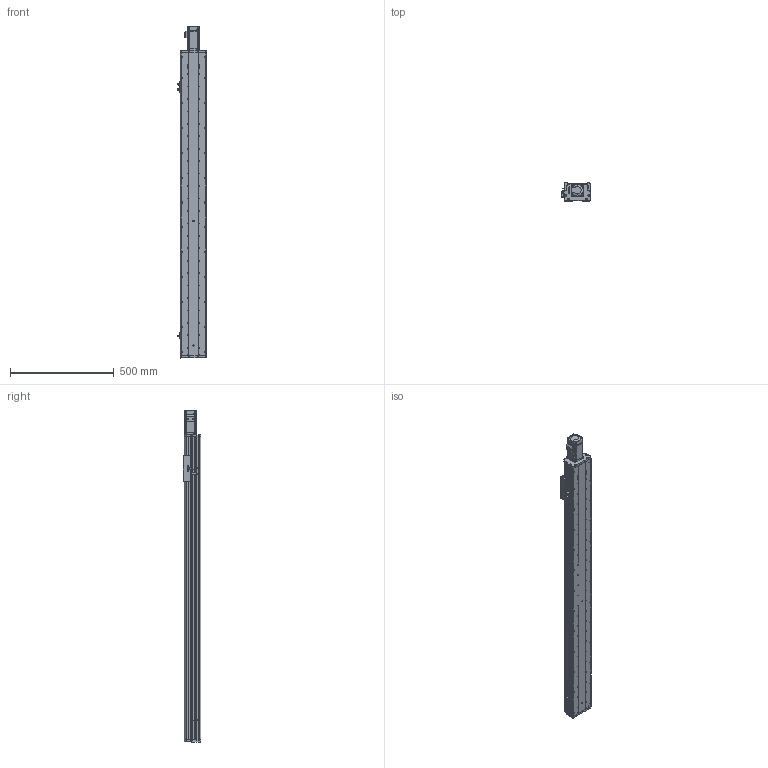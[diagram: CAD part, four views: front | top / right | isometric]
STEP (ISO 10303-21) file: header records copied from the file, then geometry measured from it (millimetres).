
FILE_DESCRIPTION (( 'STEP AP214' ), '1' );
FILE_NAME ('KSD125S-S1200-MN-CM.STEP', '2017-08-07T06:30:08', ( '微软用户' ), ( '微软中国' ), 'SwSTEP 2.0', 'SolidWorks 2014', '' );
FILE_SCHEMA (( 'AUTOMOTIVE_DESIGN' ));
Length unit declared in the file: millimetre
Products named in the file (12): KSD125S-1200行程丝杆底板-直连不带电机座; KSD125S-1200行程丝杆防尘盖-直连不带电机座; 125宽模组 - 直连不带电机座电机安装板; MHMD042G1CA_2_03; 拸萇儂釱滅袉菜; 覜茼え68遵圉猾敕; U倰嫖萇假蚾璃; U倰嫖萇EEㄜSX672; KSD125-賑雄釱1; CS-34X32-10X14; 125-帣傷啣1; KSD125S-S1200-MN-CM
Assembly tree (15 placements, depth 2):
  KSD125S-S1200-MN-CM
    125-帣傷啣1
    CS-34X32-10X14
    KSD125-賑雄釱1
    U倰嫖萇EEㄜSX672  x3
    U倰嫖萇假蚾璃  x3
    覜茼え68遵圉猾敕
    拸萇儂釱滅袉菜
    MHMD042G1CA_2_03
    125宽模组 - 直连不带电机座电机安装板
    KSD125S-1200行程丝杆防尘盖-直连不带电机座
    KSD125S-1200行程丝杆底板-直连不带电机座
Bounding box: 138.7 x 86 x 1601.5 mm (x, y, z)
Volume: 4518300.5 mm3; surface area: 1470729.8 mm2
Topology: 14 solids, 17 shells, 1554 faces, 4509 edges, 2969 vertices
Faces by surface type: cylinder 812, plane 629, cone 91, bspline 22
Entity records: 55350 total; most frequent: CARTESIAN_POINT 11712, DIRECTION 7881, ORIENTED_EDGE 7526, EDGE_CURVE 3841, AXIS2_PLACEMENT_3D 2924, VERTEX_POINT 2561, VECTOR 2033, LINE 2033
